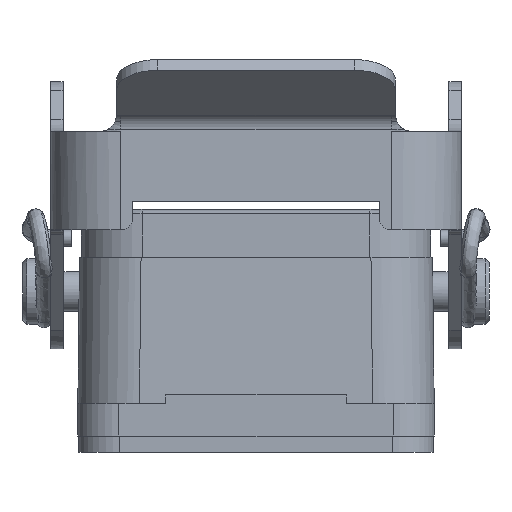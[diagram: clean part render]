
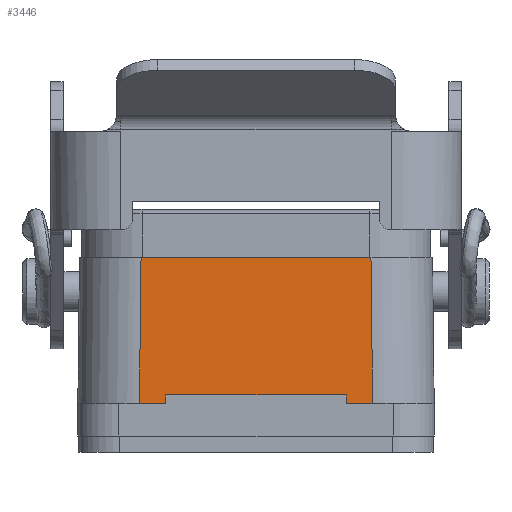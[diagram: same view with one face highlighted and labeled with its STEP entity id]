
A CAD part, left-side view. The second image highlights one B-rep face of the part: STEP entity #3446.
In plain terms, the highlighted planar face has unit normal (-1, 0, 0.026).
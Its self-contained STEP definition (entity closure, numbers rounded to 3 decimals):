
#3446=ADVANCED_FACE('',(#4193),#3914,.T.);
#3914=PLANE('',#12044);
#4193=FACE_OUTER_BOUND('',#4643,.T.);
#4643=EDGE_LOOP('',(#5929,#5930,#5931,#5932,#5933,#5934,#5935,#5936));
#5929=ORIENTED_EDGE('',*,*,#9125,.T.);
#5930=ORIENTED_EDGE('',*,*,#9103,.F.);
#5931=ORIENTED_EDGE('',*,*,#9126,.T.);
#5932=ORIENTED_EDGE('',*,*,#9127,.F.);
#5933=ORIENTED_EDGE('',*,*,#9128,.F.);
#5934=ORIENTED_EDGE('',*,*,#9111,.F.);
#5935=ORIENTED_EDGE('',*,*,#9129,.T.);
#5936=ORIENTED_EDGE('',*,*,#8758,.T.);
#7931=VERTEX_POINT('',#14706);
#7932=VERTEX_POINT('',#14708);
#8196=VERTEX_POINT('',#15483);
#8200=VERTEX_POINT('',#15491);
#8203=VERTEX_POINT('',#15499);
#8207=VERTEX_POINT('',#15507);
#8210=VERTEX_POINT('',#15531);
#8211=VERTEX_POINT('',#15533);
#8758=EDGE_CURVE('',#7932,#7931,#10002,.T.);
#9103=EDGE_CURVE('',#8200,#8196,#10252,.T.);
#9111=EDGE_CURVE('',#8207,#8203,#10256,.T.);
#9125=EDGE_CURVE('',#7931,#8196,#10270,.T.);
#9126=EDGE_CURVE('',#8200,#8210,#10271,.T.);
#9127=EDGE_CURVE('',#8211,#8210,#10272,.T.);
#9128=EDGE_CURVE('',#8203,#8211,#10273,.T.);
#9129=EDGE_CURVE('',#8207,#7932,#10274,.T.);
#10002=LINE('',#14707,#10705);
#10252=LINE('',#15492,#10955);
#10256=LINE('',#15508,#10959);
#10270=LINE('',#15529,#10973);
#10271=LINE('',#15530,#10974);
#10272=LINE('',#15532,#10975);
#10273=LINE('',#15534,#10976);
#10274=LINE('',#15535,#10977);
#10705=VECTOR('',#12592,1.);
#10955=VECTOR('',#13152,1.);
#10959=VECTOR('',#13166,1.);
#10973=VECTOR('',#13190,1.);
#10974=VECTOR('',#13191,1.);
#10975=VECTOR('',#13192,1.);
#10976=VECTOR('',#13193,1.);
#10977=VECTOR('',#13194,1.);
#12044=AXIS2_PLACEMENT_3D('',#15536,#13195,#13196);
#12592=DIRECTION('',(0.,1.,0.));
#13152=DIRECTION('',(0.,1.,0.));
#13166=DIRECTION('',(0.,1.,0.));
#13190=DIRECTION('',(-0.026,0.011,-1.));
#13191=DIRECTION('',(0.026,0.,1.));
#13192=DIRECTION('',(0.,1.,0.));
#13193=DIRECTION('',(0.026,0.,1.));
#13194=DIRECTION('',(0.026,0.011,1.));
#13195=DIRECTION('',(-1.,0.,0.026));
#13196=DIRECTION('',(0.026,0.,1.));
#14706=CARTESIAN_POINT('',(-59.8,14.002,5.7));
#14707=CARTESIAN_POINT('',(-59.8,-21.5,5.7));
#14708=CARTESIAN_POINT('',(-59.8,-14.002,5.7));
#15483=CARTESIAN_POINT('',(-60.265,14.202,-12.05));
#15491=CARTESIAN_POINT('',(-60.265,11.,-12.05));
#15492=CARTESIAN_POINT('',(-60.265,21.7,-12.05));
#15499=CARTESIAN_POINT('',(-60.265,-11.,-12.05));
#15507=CARTESIAN_POINT('',(-60.265,-14.202,-12.05));
#15508=CARTESIAN_POINT('',(-60.265,0.,-12.05));
#15529=CARTESIAN_POINT('',(-60.267,14.203,-12.134));
#15530=CARTESIAN_POINT('',(-60.245,11.,-11.305));
#15531=CARTESIAN_POINT('',(-60.239,11.,-11.05));
#15532=CARTESIAN_POINT('',(-60.239,0.,-11.05));
#15533=CARTESIAN_POINT('',(-60.239,-11.,-11.05));
#15534=CARTESIAN_POINT('',(-59.8,-11.,5.7));
#15535=CARTESIAN_POINT('',(-59.802,-14.003,5.616));
#15536=CARTESIAN_POINT('',(-59.8,0.,5.7));
